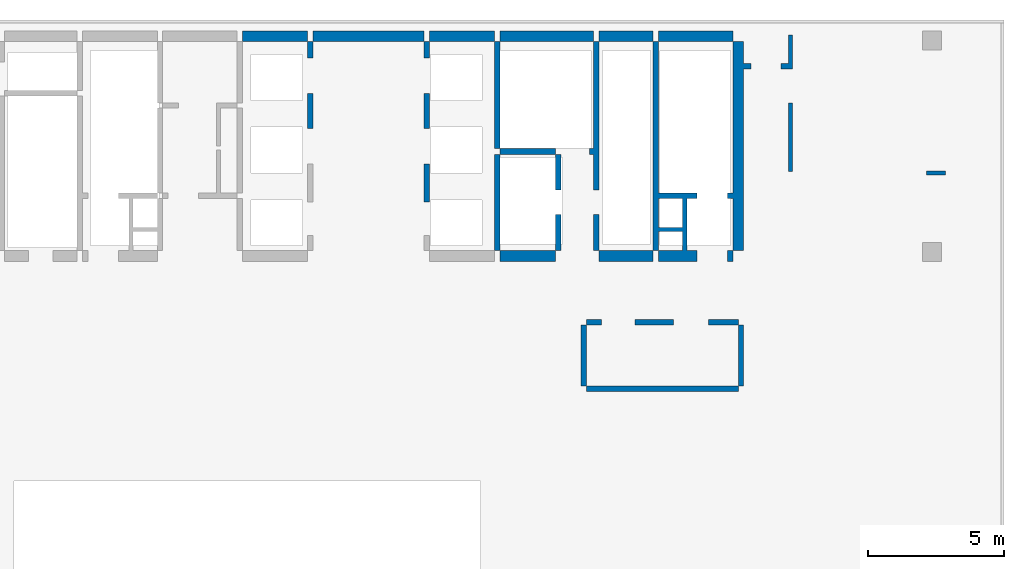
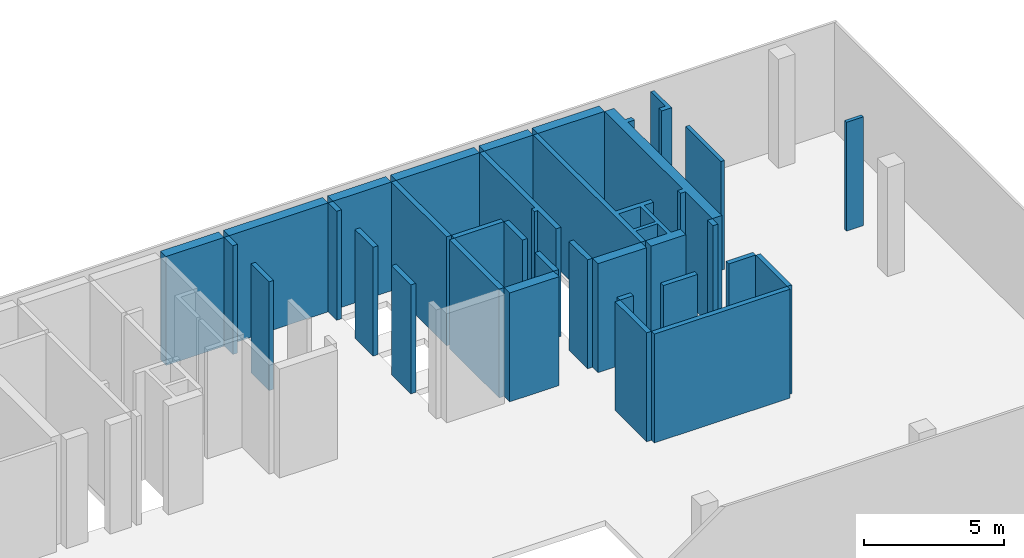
# One storey, part 2 of 3: 32 walls.
"""IFC4 building model written with IfcOpenShell, lengths in millimetres."""

from ifc_helpers import new_model, si_unit, frame, origin, place, context, project, spatial, triangles, element, save


model = new_model("IFC4")

# Units and contexts
model_context = context("Model", 3, precision=0.001, world=origin())
ifc_project = project(units=[si_unit("LENGTHUNIT", "METRE", prefix="MILLI"), si_unit("AREAUNIT", "SQUARE_METRE"), si_unit("VOLUMEUNIT", "CUBIC_METRE")], contexts=[model_context])

# Site, building, storey
site_placement = place(None, origin())
site = spatial("IfcSite", under=ifc_project, at=site_placement, Name="Site", CompositionType="ELEMENT")
building_placement = place(site_placement, origin())
building = spatial("IfcBuilding", under=site, at=building_placement, Name="INNOCEAN", CompositionType="ELEMENT")
storey_placement = place(building_placement, frame((0.0, 0.0, 6000.0)))
storey = spatial("IfcBuildingStorey", under=building, at=storey_placement, Name="F02", CompositionType="ELEMENT", Elevation=6000.0)

# Walls
wall_1_placement = place(storey_placement, origin())
element("IfcWall", 1, at=wall_1_placement, inside=storey, Name="F02_Walls_F02_024", context=model_context, shape_type="Tessellation", body=[
    triangles([(29020.0, 19120.0, 0.0), (29020.9, 19120.0, 0.0), (29020.9, 19120.0, 4750.0), (29020.0, 19120.0, 4750.0), (29020.0, 20515.0, 0.0), (29020.0, 20515.0, 4750.0), (29020.9, 20515.0, 0.0), (29020.9, 20515.0, 4750.0), (29020.9, 20516.8, 4750.0), (29020.9, 20516.8, 0.0), (29224.0, 20516.8, 0.0), (29224.0, 20516.8, 4750.0), (29224.0, 20515.0, 4750.0), (29224.0, 20515.0, 0.0), (29225.0, 20515.0, 0.0), (29225.0, 20515.0, 4750.0), (29225.0, 19120.0, 0.0), (29225.0, 19120.0, 4750.0), (29224.0, 19120.0, 0.0), (29224.0, 19120.0, 4750.0), (29224.0, 19119.7, 0.0), (29224.0, 19119.7, 4750.0), (29020.9, 19119.7, 0.0), (29020.9, 19119.7, 4750.0)], [[1, 2, 3], [1, 3, 4], [5, 1, 4], [5, 4, 6], [7, 5, 6], [7, 6, 8], [7, 8, 9], [10, 7, 9], [11, 10, 9], [11, 9, 12], [11, 12, 13], [14, 11, 13], [15, 14, 13], [15, 13, 16], [17, 15, 16], [17, 16, 18], [19, 17, 18], [19, 18, 20], [21, 19, 20], [21, 20, 22], [23, 21, 22], [23, 22, 24], [2, 23, 24], [2, 24, 3], [2, 19, 21], [2, 21, 23], [14, 15, 17], [14, 17, 19], [14, 19, 2], [7, 14, 2], [5, 2, 1], [5, 7, 2], [10, 11, 14], [10, 14, 7], [20, 3, 22], [22, 3, 24], [16, 13, 18], [18, 13, 20], [20, 13, 3], [13, 8, 3], [3, 6, 4], [8, 6, 3], [12, 9, 13], [13, 9, 8]], closed=True),
])
wall_2_placement = place(storey_placement, origin())
element("IfcWall", 2, at=wall_2_placement, inside=storey, Name="F02_Walls_F02_028", context=model_context, shape_type="Tessellation", body=[
    triangles([(24920.0, 21825.0, 0.0), (24920.0, 21825.1, 0.0), (24920.0, 21825.1, 4750.0), (24920.0, 21825.0, 4750.0), (24730.0, 21825.0, 0.0), (24730.0, 21825.0, 4750.0), (24730.0, 23120.0, 0.0), (24730.0, 23120.0, 4750.0), (24730.6, 23120.0, 0.0), (24730.6, 23120.0, 4750.0), (24730.6, 23120.6, 0.0), (24730.6, 23120.6, 4750.0), (24921.0, 23120.6, 0.0), (24921.0, 23120.6, 4750.0), (24921.0, 21825.1, 4750.0), (24921.0, 21825.1, 0.0)], [[1, 2, 3], [1, 3, 4], [5, 1, 4], [5, 4, 6], [7, 5, 6], [7, 6, 8], [9, 7, 8], [9, 8, 10], [11, 9, 10], [11, 10, 12], [13, 11, 12], [13, 12, 14], [13, 14, 15], [16, 13, 15], [2, 16, 15], [2, 15, 3], [5, 2, 1], [13, 16, 2], [9, 13, 2], [9, 2, 5], [7, 9, 5], [11, 13, 9], [3, 6, 4], [15, 14, 3], [14, 10, 3], [3, 10, 6], [10, 8, 6], [14, 12, 10]], closed=True),
])
wall_3_placement = place(storey_placement, origin())
element("IfcWall", 3, at=wall_3_placement, inside=storey, Name="F02_Walls_F02_029", context=model_context, shape_type="Tessellation", body=[
    triangles([(29224.0, 23120.0, 0.0), (29224.0, 23120.6, 0.0), (29224.0, 23120.6, 4750.0), (29224.0, 23120.0, 4750.0), (29225.0, 23120.0, 0.0), (29225.0, 23120.0, 4750.0), (29225.0, 21825.0, 0.0), (29225.0, 21825.0, 4750.0), (29020.0, 21825.0, 0.0), (29020.0, 21825.0, 4750.0), (29020.0, 23120.0, 0.0), (29020.0, 23120.0, 4750.0), (29020.9, 23120.0, 0.0), (29020.9, 23120.0, 4750.0), (29020.9, 23120.6, 0.0), (29020.9, 23120.6, 4750.0)], [[1, 2, 3], [1, 3, 4], [5, 1, 4], [5, 4, 6], [7, 5, 6], [7, 6, 8], [9, 7, 8], [9, 8, 10], [11, 9, 10], [11, 10, 12], [13, 11, 12], [13, 12, 14], [15, 13, 14], [15, 14, 16], [2, 15, 16], [2, 16, 3], [1, 5, 7], [1, 7, 9], [13, 1, 9], [15, 2, 1], [15, 1, 13], [11, 13, 9], [6, 4, 8], [8, 4, 10], [4, 14, 10], [3, 16, 4], [4, 16, 14], [14, 12, 10]], closed=True),
])
wall_4_placement = place(storey_placement, origin())
element("IfcWall", 4, at=wall_4_placement, inside=storey, Name="F02_Walls_F02_032", context=model_context, shape_type="Tessellation", body=[
    triangles([(24921.0, 24416.1, 0.0), (24921.0, 25025.8, 0.0), (24921.0, 25025.8, 4750.0), (24921.0, 24416.1, 4750.0), (24730.6, 24416.1, 0.0), (24730.6, 24416.1, 4750.0), (24730.6, 25025.8, 0.0), (24730.6, 25025.8, 4750.0)], [[1, 2, 3], [1, 3, 4], [5, 1, 4], [5, 4, 6], [7, 5, 6], [7, 6, 8], [2, 7, 8], [2, 8, 3], [7, 2, 1], [7, 1, 5], [3, 8, 4], [4, 8, 6]], closed=True),
])
wall_5_placement = place(storey_placement, origin())
element("IfcWall", 5, at=wall_5_placement, inside=storey, Name="F02_Walls_F02_033", context=model_context, shape_type="Tessellation", body=[
    triangles([(29224.0, 24416.1, 0.0), (29224.0, 25025.8, 0.0), (29224.0, 25025.8, 4750.0), (29224.0, 24416.1, 4750.0), (29020.9, 24416.1, 0.0), (29020.9, 24416.1, 4750.0), (29020.9, 25025.8, 0.0), (29020.9, 25025.8, 4750.0)], [[1, 2, 3], [1, 3, 4], [5, 1, 4], [5, 4, 6], [7, 5, 6], [7, 6, 8], [2, 7, 8], [2, 8, 3], [7, 2, 1], [7, 1, 5], [3, 8, 4], [4, 8, 6]], closed=True),
])
wall_6_placement = place(storey_placement, origin())
element("IfcWall", 6, at=wall_6_placement, inside=storey, Name="F02_Walls_F02_035", context=model_context, shape_type="Tessellation", body=[
    triangles([(24730.6, 25025.8, 0.0), (24730.6, 25419.5, 0.0), (24730.6, 25419.5, 4750.0), (24730.6, 25025.8, 4750.0), (22331.6, 25025.8, 0.0), (22331.6, 25025.8, 4750.0), (22331.6, 25419.5, 0.0), (22331.6, 25419.5, 4750.0)], [[1, 2, 3], [1, 3, 4], [5, 1, 4], [5, 4, 6], [7, 5, 6], [7, 6, 8], [2, 7, 8], [2, 8, 3], [7, 2, 1], [7, 1, 5], [3, 8, 4], [4, 8, 6]], closed=True),
])
wall_7_placement = place(storey_placement, origin())
element("IfcWall", 7, at=wall_7_placement, inside=storey, Name="F02_Walls_F02_036", context=model_context, shape_type="Tessellation", body=[
    triangles([(29020.9, 25025.8, 0.0), (29020.9, 25419.5, 0.0), (29020.9, 25419.5, 4750.0), (29020.9, 25025.8, 4750.0), (24921.0, 25025.8, 0.0), (24921.0, 25025.8, 4750.0), (24921.0, 25419.5, 0.0), (24921.0, 25419.5, 4750.0)], [[1, 2, 3], [1, 3, 4], [5, 1, 4], [5, 4, 6], [7, 5, 6], [7, 6, 8], [2, 7, 8], [2, 8, 3], [7, 2, 1], [7, 1, 5], [3, 8, 4], [4, 8, 6]], closed=True),
])
wall_8_placement = place(storey_placement, origin())
element("IfcWall", 8, at=wall_8_placement, inside=storey, Name="F02_Walls_F02_037", context=model_context, shape_type="Tessellation", body=[
    triangles([(34821.8, 14572.6, 0.0), (34821.8, 12324.5, 0.0), (34821.8, 12324.5, 4750.0), (34821.8, 14572.6, 4750.0), (35024.8, 14572.6, 0.0), (35024.8, 14572.6, 4750.0), (35024.8, 12324.5, 0.0), (35024.8, 12324.5, 4750.0)], [[1, 2, 3], [1, 3, 4], [5, 1, 4], [5, 4, 6], [7, 5, 6], [7, 6, 8], [2, 7, 8], [2, 8, 3], [1, 5, 7], [1, 7, 2], [6, 4, 8], [8, 4, 3]], closed=True),
])
wall_9_placement = place(storey_placement, origin())
element("IfcWall", 9, at=wall_9_placement, inside=storey, Name="F02_Walls_F02_038", context=model_context, shape_type="Tessellation", body=[
    triangles([(35024.8, 14572.6, 0.0), (35570.7, 14572.6, 0.0), (35570.7, 14572.6, 4750.0), (35024.8, 14572.6, 4750.0), (35024.8, 14775.8, 0.0), (35024.8, 14775.8, 4750.0), (35570.7, 14775.8, 0.0), (35570.7, 14775.8, 4750.0)], [[1, 2, 3], [1, 3, 4], [5, 1, 4], [5, 4, 6], [7, 5, 6], [7, 6, 8], [2, 7, 8], [2, 8, 3], [5, 2, 1], [5, 7, 2], [3, 6, 4], [8, 6, 3]], closed=True),
])
wall_10_placement = place(storey_placement, origin())
element("IfcWall", 10, at=wall_10_placement, inside=storey, Name="F02_Walls_F02_039", context=model_context, shape_type="Tessellation", body=[
    triangles([(38223.5, 14575.0, 0.0), (38225.0, 14575.0, 0.0), (38225.0, 14575.0, 4750.0), (38223.5, 14575.0, 4750.0), (38223.5, 14572.6, 4750.0), (38223.5, 14572.6, 0.0), (36814.6, 14572.6, 0.0), (36814.6, 14572.6, 4750.0), (36814.6, 14775.8, 0.0), (36814.6, 14775.8, 4750.0), (38223.5, 14775.8, 0.0), (38223.5, 14775.8, 4750.0), (38223.5, 14775.0, 0.0), (38223.5, 14775.0, 4750.0), (38225.0, 14775.0, 0.0), (38225.0, 14775.0, 4750.0)], [[1, 2, 3], [1, 3, 4], [1, 4, 5], [6, 1, 5], [7, 6, 5], [7, 5, 8], [9, 7, 8], [9, 8, 10], [11, 9, 10], [11, 10, 12], [13, 11, 12], [13, 12, 14], [15, 13, 14], [15, 14, 16], [2, 15, 16], [2, 16, 3], [13, 2, 1], [13, 15, 2], [7, 1, 6], [9, 11, 13], [9, 13, 1], [9, 1, 7], [3, 14, 4], [16, 14, 3], [4, 8, 5], [12, 10, 14], [14, 10, 4], [4, 10, 8]], closed=True),
])
wall_11_placement = place(storey_placement, origin())
element("IfcWall", 11, at=wall_11_placement, inside=storey, Name="F02_Walls_F02_041", context=model_context, shape_type="Tessellation", body=[
    triangles([(33869.8, 16922.4, 0.0), (33869.8, 17316.1, 0.0), (33869.8, 17316.1, 4750.0), (33869.8, 16922.4, 4750.0), (31826.2, 16922.4, 0.0), (31826.2, 16922.4, 4750.0), (31826.2, 17316.1, 0.0), (31826.2, 17316.1, 4750.0)], [[1, 2, 3], [1, 3, 4], [5, 1, 4], [5, 4, 6], [7, 5, 6], [7, 6, 8], [2, 7, 8], [2, 8, 3], [7, 2, 1], [7, 1, 5], [3, 8, 4], [4, 8, 6]], closed=True),
])
wall_12_placement = place(storey_placement, origin())
element("IfcWall", 12, at=wall_12_placement, inside=storey, Name="F02_Walls_F02_042", context=model_context, shape_type="Tessellation", body=[
    triangles([(37474.6, 16922.4, 0.0), (37474.6, 17316.1, 0.0), (37474.6, 17316.1, 4750.0), (37474.6, 16922.4, 4750.0), (35469.1, 16922.4, 0.0), (35469.1, 16922.4, 4750.0), (35469.1, 17316.1, 0.0), (35469.1, 17316.1, 4750.0)], [[1, 2, 3], [1, 3, 4], [5, 1, 4], [5, 4, 6], [7, 5, 6], [7, 6, 8], [2, 7, 8], [2, 8, 3], [7, 2, 1], [7, 1, 5], [3, 8, 4], [4, 8, 6]], closed=True),
])
wall_13_placement = place(storey_placement, origin())
element("IfcWall", 13, at=wall_13_placement, inside=storey, Name="F02_Walls_F02_043", context=model_context, shape_type="Tessellation", body=[
    triangles([(34072.9, 18649.7, 0.0), (33869.8, 18649.7, 0.0), (33869.8, 18649.7, 4750.0), (34072.9, 18649.7, 4750.0), (34072.9, 17316.1, 4750.0), (34072.9, 17316.1, 0.0), (33869.8, 17316.1, 0.0), (33869.8, 17316.1, 4750.0)], [[1, 2, 3], [1, 3, 4], [1, 4, 5], [6, 1, 5], [7, 6, 5], [7, 5, 8], [7, 8, 3], [2, 7, 3], [2, 1, 6], [2, 6, 7], [4, 3, 5], [5, 3, 8]], closed=True),
])
wall_14_placement = place(storey_placement, origin())
element("IfcWall", 14, at=wall_14_placement, inside=storey, Name="F02_Walls_F02_044", context=model_context, shape_type="Tessellation", body=[
    triangles([(35469.1, 18649.7, 0.0), (35469.1, 18649.7, 4750.0), (35469.1, 17316.1, 4750.0), (35469.1, 17316.1, 0.0), (35266.0, 17316.1, 0.0), (35266.0, 17316.1, 4750.0), (35266.0, 18649.7, 4750.0), (35266.0, 18649.7, 0.0)], [[1, 2, 3], [4, 1, 3], [5, 4, 3], [5, 3, 6], [5, 6, 7], [8, 5, 7], [1, 8, 7], [1, 7, 2], [8, 1, 4], [8, 4, 5], [2, 7, 3], [3, 7, 6]], closed=True),
])
wall_15_placement = place(storey_placement, origin())
element("IfcWall", 15, at=wall_15_placement, inside=storey, Name="F02_Walls_F02_045", context=model_context, shape_type="Tessellation", body=[
    triangles([(37474.6, 19449.9, 0.0), (37474.6, 17316.1, 0.0), (37474.6, 17316.1, 4750.0), (37474.6, 19449.9, 4750.0), (37665.0, 17316.1, 0.0), (37665.0, 17316.1, 4750.0), (37665.0, 16922.4, 0.0), (37665.0, 16922.4, 4750.0), (39099.4, 16922.4, 0.0), (39099.4, 16922.4, 4750.0), (39099.4, 17316.1, 0.0), (39099.4, 17316.1, 4750.0), (38720.0, 17316.1, 0.0), (38720.0, 17316.1, 4750.0), (38720.0, 19245.0, 0.0), (38720.0, 19245.0, 4750.0), (39100.0, 19245.0, 0.0), (39100.0, 19245.0, 4750.0), (39100.0, 19450.0, 0.0), (39100.0, 19450.0, 4750.0), (37665.0, 19450.0, 0.0), (37665.0, 19450.0, 4750.0), (37665.0, 25025.8, 0.0), (37665.0, 25025.8, 4750.0), (37474.6, 25025.8, 0.0), (37474.6, 25025.8, 4750.0), (37665.0, 18014.7, 0.0), (37665.0, 18014.7, 4750.0), (38565.0, 18014.7, 0.0), (38565.0, 18014.7, 4750.0), (38565.0, 17316.1, 0.0), (38565.0, 17316.1, 4750.0), (38565.0, 18167.1, 0.0), (37665.0, 18167.1, 0.0), (37665.0, 18167.1, 4750.0), (38565.0, 18167.1, 4750.0), (37665.0, 19245.0, 0.0), (37665.0, 19245.0, 4750.0), (38565.0, 19245.0, 0.0), (38565.0, 19245.0, 4750.0)], [[1, 2, 3], [1, 3, 4], [2, 5, 6], [2, 6, 3], [5, 7, 8], [5, 8, 6], [7, 9, 10], [7, 10, 8], [9, 11, 12], [9, 12, 10], [11, 13, 14], [11, 14, 12], [15, 16, 14], [13, 15, 14], [15, 17, 18], [15, 18, 16], [17, 19, 20], [17, 20, 18], [21, 22, 20], [19, 21, 20], [21, 23, 24], [21, 24, 22], [23, 25, 26], [23, 26, 24], [25, 1, 4], [25, 4, 26], [5, 27, 28], [5, 28, 6], [27, 29, 30], [27, 30, 28], [29, 31, 32], [29, 32, 30], [31, 5, 6], [31, 6, 32], [33, 34, 35], [33, 35, 36], [34, 37, 38], [34, 38, 35], [37, 39, 40], [37, 40, 38], [39, 33, 36], [39, 36, 40], [13, 11, 9], [31, 13, 9], [7, 31, 9], [29, 13, 31], [5, 31, 7], [27, 5, 2], [34, 29, 27], [34, 33, 29], [34, 27, 2], [15, 19, 17], [39, 15, 33], [39, 19, 15], [21, 39, 37], [21, 19, 39], [1, 37, 34], [1, 21, 37], [1, 34, 2], [25, 23, 21], [25, 21, 1], [15, 13, 29], [15, 29, 33], [12, 14, 10], [14, 32, 10], [32, 8, 10], [14, 30, 32], [32, 6, 8], [6, 28, 3], [30, 35, 28], [36, 35, 30], [28, 35, 3], [20, 16, 18], [16, 40, 36], [20, 40, 16], [40, 22, 38], [20, 22, 40], [38, 4, 35], [22, 4, 38], [35, 4, 3], [24, 26, 22], [22, 26, 4], [14, 16, 30], [30, 16, 36]], closed=True),
])
wall_16_placement = place(storey_placement, origin())
element("IfcWall", 16, at=wall_16_placement, inside=storey, Name="F02_Walls_F02_046", context=model_context, shape_type="Tessellation", body=[
    triangles([(31826.2, 20872.5, 0.0), (31623.1, 20872.5, 0.0), (31623.1, 20872.5, 4750.0), (31826.2, 20872.5, 4750.0), (31826.2, 17316.1, 0.0), (31826.2, 17316.1, 4750.0), (31623.1, 17316.1, 0.0), (31623.1, 17316.1, 4750.0)], [[1, 2, 3], [1, 3, 4], [5, 1, 4], [5, 4, 6], [7, 5, 6], [7, 6, 8], [2, 7, 8], [2, 8, 3], [2, 1, 5], [2, 5, 7], [4, 3, 6], [6, 3, 8]], closed=True),
])
wall_17_placement = place(storey_placement, origin())
element("IfcWall", 17, at=wall_17_placement, inside=storey, Name="F02_Walls_F02_047", context=model_context, shape_type="Tessellation", body=[
    triangles([(34072.9, 20872.5, 0.0), (34072.9, 20872.5, 4750.0), (34072.9, 19551.5, 4750.0), (34072.9, 19551.5, 0.0), (33869.8, 19551.5, 0.0), (33869.8, 19551.5, 4750.0), (33869.8, 20872.5, 4750.0), (33869.8, 20872.5, 0.0)], [[1, 2, 3], [4, 1, 3], [5, 4, 3], [5, 3, 6], [5, 6, 7], [8, 5, 7], [1, 8, 7], [1, 7, 2], [8, 1, 4], [8, 4, 5], [2, 7, 3], [3, 7, 6]], closed=True),
])
wall_18_placement = place(storey_placement, origin())
element("IfcWall", 18, at=wall_18_placement, inside=storey, Name="F02_Walls_F02_048", context=model_context, shape_type="Tessellation", body=[
    triangles([(35266.0, 25025.8, 0.0), (35266.0, 21075.7, 0.0), (35266.0, 21075.7, 4750.0), (35266.0, 25025.8, 4750.0), (35469.1, 25025.8, 0.0), (35469.1, 25025.8, 4750.0), (35469.1, 21075.7, 0.0), (35469.1, 21075.7, 4750.0), (35469.1, 20872.5, 4750.0), (35469.1, 20872.5, 0.0), (35469.1, 19551.5, 4750.0), (35469.1, 19551.5, 0.0), (35266.0, 19551.5, 0.0), (35266.0, 19551.5, 4750.0), (35266.0, 20872.5, 4750.0), (35266.0, 20872.5, 0.0), (35126.4, 20872.5, 0.0), (35126.4, 20872.5, 4750.0), (35126.4, 21075.7, 4750.0), (35126.4, 21075.7, 0.0)], [[1, 2, 3], [1, 3, 4], [5, 1, 4], [5, 4, 6], [7, 5, 6], [7, 6, 8], [7, 8, 9], [10, 7, 9], [10, 9, 11], [12, 10, 11], [13, 12, 11], [13, 11, 14], [13, 14, 15], [16, 13, 15], [17, 16, 15], [17, 15, 18], [17, 18, 19], [20, 17, 19], [2, 20, 19], [2, 19, 3], [16, 10, 12], [16, 12, 13], [7, 10, 16], [2, 7, 16], [20, 16, 17], [20, 2, 16], [1, 5, 7], [1, 7, 2], [9, 15, 11], [11, 15, 14], [9, 8, 15], [8, 3, 15], [15, 19, 18], [3, 19, 15], [6, 4, 8], [8, 4, 3]], closed=True),
])
wall_19_placement = place(storey_placement, origin())
element("IfcWall", 19, at=wall_19_placement, inside=storey, Name="F02_Walls_F02_049", context=model_context, shape_type="Tessellation", body=[
    triangles([(33869.8, 21075.7, 0.0), (33869.8, 21075.7, 4750.0), (33869.8, 20872.5, 4750.0), (33869.8, 20872.5, 0.0), (31826.2, 20872.5, 0.0), (31826.2, 20872.5, 4750.0), (31826.2, 21075.7, 4750.0), (31826.2, 21075.7, 0.0)], [[1, 2, 3], [4, 1, 3], [5, 4, 3], [5, 3, 6], [5, 6, 7], [8, 5, 7], [1, 8, 7], [1, 7, 2], [8, 1, 4], [8, 4, 5], [2, 7, 3], [3, 7, 6]], closed=True),
])
wall_20_placement = place(storey_placement, origin())
element("IfcWall", 20, at=wall_20_placement, inside=storey, Name="F02_Walls_F02_050", context=model_context, shape_type="Tessellation", body=[
    triangles([(31826.2, 21075.7, 0.0), (31826.2, 25025.8, 0.0), (31826.2, 25025.8, 4750.0), (31826.2, 21075.7, 4750.0), (31623.1, 21075.7, 0.0), (31623.1, 21075.7, 4750.0), (31623.1, 25025.8, 0.0), (31623.1, 25025.8, 4750.0)], [[1, 2, 3], [1, 3, 4], [5, 1, 4], [5, 4, 6], [7, 5, 6], [7, 6, 8], [2, 7, 8], [2, 8, 3], [2, 1, 5], [7, 2, 5], [4, 3, 6], [3, 8, 6]], closed=True),
])
wall_21_placement = place(storey_placement, origin())
element("IfcWall", 21, at=wall_21_placement, inside=storey, Name="F02_Walls_F02_051", context=model_context, shape_type="Tessellation", body=[
    triangles([(31623.1, 25025.8, 0.0), (31623.1, 25419.5, 0.0), (31623.1, 25419.5, 4750.0), (31623.1, 25025.8, 4750.0), (29224.0, 25025.8, 0.0), (29224.0, 25025.8, 4750.0), (29224.0, 25419.5, 0.0), (29224.0, 25419.5, 4750.0)], [[1, 2, 3], [1, 3, 4], [5, 1, 4], [5, 4, 6], [7, 5, 6], [7, 6, 8], [2, 7, 8], [2, 8, 3], [7, 2, 1], [7, 1, 5], [3, 8, 4], [4, 8, 6]], closed=True),
])
wall_22_placement = place(storey_placement, origin())
element("IfcWall", 22, at=wall_22_placement, inside=storey, Name="F02_Walls_F02_052", context=model_context, shape_type="Tessellation", body=[
    triangles([(35266.0, 25025.8, 0.0), (35266.0, 25419.5, 0.0), (35266.0, 25419.5, 4750.0), (35266.0, 25025.8, 4750.0), (31826.2, 25025.8, 0.0), (31826.2, 25025.8, 4750.0), (31826.2, 25419.5, 0.0), (31826.2, 25419.5, 4750.0)], [[1, 2, 3], [1, 3, 4], [5, 1, 4], [5, 4, 6], [7, 5, 6], [7, 6, 8], [2, 7, 8], [2, 8, 3], [7, 2, 1], [7, 1, 5], [3, 8, 4], [4, 8, 6]], closed=True),
])
wall_23_placement = place(storey_placement, origin())
element("IfcWall", 23, at=wall_23_placement, inside=storey, Name="F02_Walls_F02_053", context=model_context, shape_type="Tessellation", body=[
    triangles([(37474.6, 25025.8, 0.0), (37474.6, 25419.5, 0.0), (37474.6, 25419.5, 4750.0), (37474.6, 25025.8, 4750.0), (35469.1, 25025.8, 0.0), (35469.1, 25025.8, 4750.0), (35469.1, 25419.5, 0.0), (35469.1, 25419.5, 4750.0)], [[1, 2, 3], [1, 3, 4], [5, 1, 4], [5, 4, 6], [7, 5, 6], [7, 6, 8], [2, 7, 8], [2, 8, 3], [7, 2, 1], [7, 1, 5], [3, 8, 4], [4, 8, 6]], closed=True),
])
wall_24_placement = place(storey_placement, origin())
element("IfcWall", 24, at=wall_24_placement, inside=storey, Name="F02_Walls_F02_054", context=model_context, shape_type="Tessellation", body=[
    triangles([(35024.8, 12121.3, 0.0), (35024.8, 12121.3, 4750.0), (35024.8, 12324.5, 4750.0), (35024.8, 12324.5, 0.0), (40622.6, 12324.5, 0.0), (40622.6, 12324.5, 4750.0), (40622.6, 12121.3, 4750.0), (40622.6, 12121.3, 0.0)], [[1, 2, 3], [4, 1, 3], [5, 4, 3], [5, 3, 6], [5, 6, 7], [8, 5, 7], [1, 8, 7], [1, 7, 2], [4, 5, 8], [4, 8, 1], [6, 3, 7], [7, 3, 2]], closed=True),
])
wall_25_placement = place(storey_placement, origin())
element("IfcWall", 25, at=wall_25_placement, inside=storey, Name="F02_Walls_F02_055", context=model_context, shape_type="Tessellation", body=[
    triangles([(40622.6, 14572.6, 0.0), (40622.6, 12324.5, 0.0), (40622.6, 12324.5, 4750.0), (40622.6, 14572.6, 4750.0), (40813.0, 14572.6, 0.0), (40813.0, 14572.6, 4750.0), (40813.0, 12324.5, 0.0), (40813.0, 12324.5, 4750.0)], [[1, 2, 3], [1, 3, 4], [5, 1, 4], [5, 4, 6], [7, 5, 6], [7, 6, 8], [2, 7, 8], [2, 8, 3], [5, 7, 2], [1, 5, 2], [8, 6, 3], [6, 4, 3]], closed=True),
])
wall_26_placement = place(storey_placement, origin())
element("IfcWall", 26, at=wall_26_placement, inside=storey, Name="F02_Walls_F02_056", context=model_context, shape_type="Tessellation", body=[
    triangles([(40622.6, 14572.6, 0.0), (40622.6, 14775.8, 0.0), (40622.6, 14775.8, 4750.0), (40622.6, 14572.6, 4750.0), (39518.2, 14572.6, 0.0), (39518.2, 14572.6, 4750.0), (39518.2, 14775.8, 0.0), (39518.2, 14775.8, 4750.0)], [[1, 2, 3], [1, 3, 4], [5, 1, 4], [5, 4, 6], [7, 5, 6], [7, 6, 8], [2, 7, 8], [2, 8, 3], [7, 2, 1], [7, 1, 5], [3, 8, 4], [4, 8, 6]], closed=True),
])
wall_27_placement = place(storey_placement, origin())
element("IfcWall", 27, at=wall_27_placement, inside=storey, Name="F02_Walls_F02_057", context=model_context, shape_type="Tessellation", body=[
    triangles([(40419.5, 16922.4, 0.0), (40419.5, 17316.1, 0.0), (40419.5, 17316.1, 4750.0), (40419.5, 16922.4, 4750.0), (40216.4, 16922.4, 0.0), (40216.4, 16922.4, 4750.0), (40216.4, 17316.1, 0.0), (40216.4, 17316.1, 4750.0)], [[1, 2, 3], [1, 3, 4], [5, 1, 4], [5, 4, 6], [7, 5, 6], [7, 6, 8], [2, 7, 8], [2, 8, 3], [7, 2, 1], [7, 1, 5], [3, 8, 4], [4, 8, 6]], closed=True),
])
wall_28_placement = place(storey_placement, origin())
element("IfcWall", 28, at=wall_28_placement, inside=storey, Name="F02_Walls_F02_058", context=model_context, shape_type="Tessellation", body=[
    triangles([(40419.5, 19450.0, 0.0), (40215.0, 19450.0, 0.0), (40215.0, 19450.0, 4750.0), (40419.5, 19450.0, 4750.0), (40419.5, 25025.8, 0.0), (40419.5, 25025.8, 4750.0), (40813.0, 25025.8, 0.0), (40813.0, 25025.8, 4750.0), (40813.0, 24225.6, 0.0), (40813.0, 24225.6, 4750.0), (41079.5, 24225.6, 0.0), (41079.5, 24225.6, 4750.0), (41079.5, 24225.0, 0.0), (41079.5, 24225.0, 4750.0), (41080.0, 24225.0, 4750.0), (41080.0, 24225.0, 0.0), (41080.0, 24020.0, 0.0), (41080.0, 24020.0, 4750.0), (40815.0, 24020.0, 0.0), (40815.0, 24020.0, 4750.0), (40815.0, 24022.4, 4750.0), (40815.0, 24022.4, 0.0), (40813.0, 24022.4, 0.0), (40813.0, 24022.4, 4750.0), (40813.0, 19449.9, 0.0), (40813.0, 19449.9, 4750.0), (40813.0, 17316.1, 0.0), (40813.0, 17316.1, 4750.0), (40419.5, 17316.1, 0.0), (40419.5, 17316.1, 4750.0), (40419.5, 19245.0, 4750.0), (40419.5, 19245.0, 0.0), (40215.0, 19245.0, 0.0), (40215.0, 19245.0, 4750.0)], [[1, 2, 3], [1, 3, 4], [5, 1, 4], [5, 4, 6], [7, 5, 6], [7, 6, 8], [9, 7, 8], [9, 8, 10], [11, 9, 10], [11, 10, 12], [13, 11, 12], [13, 12, 14], [13, 14, 15], [16, 13, 15], [17, 16, 15], [17, 15, 18], [19, 17, 18], [19, 18, 20], [19, 20, 21], [22, 19, 21], [23, 22, 21], [23, 21, 24], [25, 23, 24], [25, 24, 26], [27, 25, 26], [27, 26, 28], [29, 27, 28], [29, 28, 30], [29, 30, 31], [32, 29, 31], [33, 32, 31], [33, 31, 34], [2, 33, 34], [2, 34, 3], [32, 25, 27], [32, 27, 29], [1, 25, 32], [2, 32, 33], [2, 1, 32], [13, 16, 17], [22, 17, 19], [22, 13, 17], [9, 11, 13], [9, 22, 23], [9, 13, 22], [5, 7, 9], [5, 9, 23], [1, 5, 23], [1, 23, 25], [26, 31, 28], [28, 31, 30], [26, 4, 31], [31, 3, 34], [4, 3, 31], [15, 14, 18], [18, 21, 20], [14, 21, 18], [12, 10, 14], [21, 10, 24], [14, 10, 21], [8, 6, 10], [10, 6, 24], [6, 4, 24], [24, 4, 26]], closed=True),
])
wall_29_placement = place(storey_placement, origin())
element("IfcWall", 29, at=wall_29_placement, inside=storey, Name="F02_Walls_F02_059", context=model_context, shape_type="Tessellation", body=[
    triangles([(48263.9, 20110.4, 0.0), (48263.9, 20250.1, 0.0), (48263.9, 20250.1, 4750.0), (48263.9, 20110.4, 4750.0), (47565.8, 20110.4, 0.0), (47565.8, 20110.4, 4750.0), (47565.8, 20250.1, 0.0), (47565.8, 20250.1, 4750.0)], [[1, 2, 3], [1, 3, 4], [5, 1, 4], [5, 4, 6], [7, 5, 6], [7, 6, 8], [2, 7, 8], [2, 8, 3], [7, 2, 1], [7, 1, 5], [3, 8, 4], [4, 8, 6]], closed=True),
])
wall_30_placement = place(storey_placement, origin())
element("IfcWall", 30, at=wall_30_placement, inside=storey, Name="F02_Walls_F02_060", context=model_context, shape_type="Tessellation", body=[
    triangles([(42615.4, 22765.0, 0.0), (42463.1, 22765.0, 0.0), (42463.1, 22765.0, 4750.0), (42615.4, 22765.0, 4750.0), (42615.4, 20237.4, 0.0), (42615.4, 20237.4, 4750.0), (42463.1, 20237.4, 0.0), (42463.1, 20237.4, 4750.0)], [[1, 2, 3], [1, 3, 4], [5, 1, 4], [5, 4, 6], [7, 5, 6], [7, 6, 8], [2, 7, 8], [2, 8, 3], [2, 1, 5], [2, 5, 7], [4, 3, 6], [6, 3, 8]], closed=True),
])
wall_31_placement = place(storey_placement, origin())
element("IfcWall", 31, at=wall_31_placement, inside=storey, Name="F02_Walls_F02_061", context=model_context, shape_type="Tessellation", body=[
    triangles([(42196.5, 24022.4, 0.0), (42463.1, 24022.4, 0.0), (42463.1, 24022.4, 4750.0), (42196.5, 24022.4, 4750.0), (42196.5, 24225.6, 0.0), (42196.5, 24225.6, 4750.0), (42463.1, 24225.6, 0.0), (42463.1, 24225.6, 4750.0), (42463.1, 25267.1, 0.0), (42463.1, 25267.1, 4750.0), (42615.4, 25267.1, 0.0), (42615.4, 25267.1, 4750.0), (42615.4, 24022.4, 4750.0), (42615.4, 24022.4, 0.0)], [[1, 2, 3], [1, 3, 4], [5, 1, 4], [5, 4, 6], [7, 5, 6], [7, 6, 8], [9, 7, 8], [9, 8, 10], [11, 9, 10], [11, 10, 12], [11, 12, 13], [14, 11, 13], [2, 14, 13], [2, 13, 3], [7, 14, 2], [5, 2, 1], [5, 7, 2], [11, 14, 7], [9, 11, 7], [13, 8, 3], [3, 6, 4], [8, 6, 3], [13, 12, 8], [12, 10, 8]], closed=True),
])
wall_32_placement = place(storey_placement, origin())
element("IfcWall", 32, at=wall_32_placement, inside=storey, Name="F02_Walls_F02_062", context=model_context, shape_type="Tessellation", body=[
    triangles([(40419.5, 25025.8, 0.0), (40419.5, 25419.5, 0.0), (40419.5, 25419.5, 4750.0), (40419.5, 25025.8, 4750.0), (37665.0, 25025.8, 0.0), (37665.0, 25025.8, 4750.0), (37665.0, 25419.5, 0.0), (37665.0, 25419.5, 4750.0)], [[1, 2, 3], [1, 3, 4], [5, 1, 4], [5, 4, 6], [7, 5, 6], [7, 6, 8], [2, 7, 8], [2, 8, 3], [7, 2, 1], [7, 1, 5], [3, 8, 4], [4, 8, 6]], closed=True),
])

save(model, "model.ifc")
